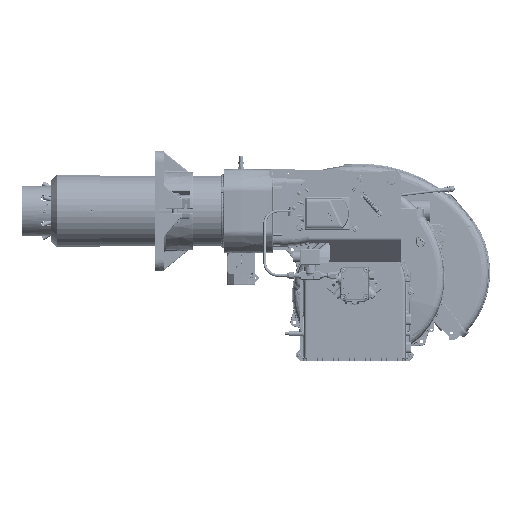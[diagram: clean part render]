
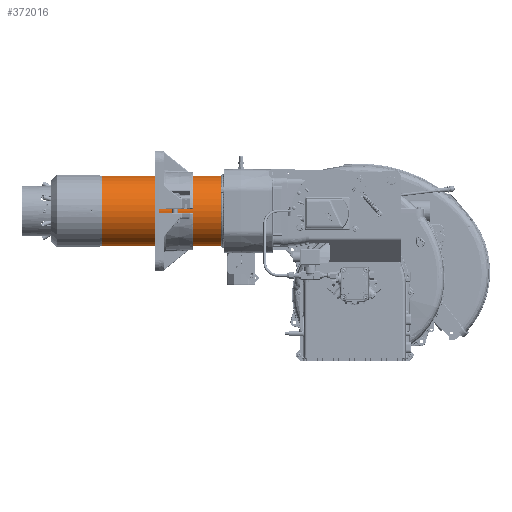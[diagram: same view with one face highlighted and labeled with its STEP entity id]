
A CAD part, top view. The second image highlights one B-rep face of the part: STEP entity #372016.
In plain terms, the highlighted cylindrical face has radius 76 mm (diameter 152 mm), a full revolution.
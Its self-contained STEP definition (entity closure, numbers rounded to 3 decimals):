
#30930 = DIRECTION ( 'NONE',  ( 0., 0., 1. ) ) ;
#54038 = AXIS2_PLACEMENT_3D ( 'NONE', #1036755, #435608, #514640 ) ;
#123362 = EDGE_CURVE ( 'NONE', #946756, #530631, #263840, .T. ) ;
#142803 = CARTESIAN_POINT ( 'NONE',  ( -289., 236., 0. ) ) ;
#209771 = EDGE_CURVE ( 'NONE', #760430, #760430, #803566, .T. ) ;
#263840 = CIRCLE ( 'NONE', #703373, 76. ) ;
#301218 = FACE_OUTER_BOUND ( 'NONE', #474464, .T. ) ;
#344848 = DIRECTION ( 'NONE',  ( 0., 0., 1. ) ) ;
#372016 = ADVANCED_FACE ( 'NONE', ( #301218, #383181 ), #907560, .T. ) ;
#372769 = CARTESIAN_POINT ( 'NONE',  ( -286., 160., 0. ) ) ;
#383181 = FACE_OUTER_BOUND ( 'NONE', #399218, .T. ) ;
#399218 = EDGE_LOOP ( 'NONE', ( #1109435, #1103570 ) ) ;
#429616 = AXIS2_PLACEMENT_3D ( 'NONE', #372769, #730052, #30930 ) ;
#435608 = DIRECTION ( 'NONE',  ( -1., 0., 0. ) ) ;
#470737 = CIRCLE ( 'NONE', #54038, 76. ) ;
#474464 = EDGE_LOOP ( 'NONE', ( #837656 ) ) ;
#514640 = DIRECTION ( 'NONE',  ( 0., 0., 1. ) ) ;
#530631 = VERTEX_POINT ( 'NONE', #142803 ) ;
#567721 = DIRECTION ( 'NONE',  ( 0., 0., 1. ) ) ;
#624971 = CARTESIAN_POINT ( 'NONE',  ( -289., 160., 76. ) ) ;
#626580 = EDGE_CURVE ( 'NONE', #530631, #946756, #470737, .T. ) ;
#703373 = AXIS2_PLACEMENT_3D ( 'NONE', #1104432, #1039970, #344848 ) ;
#730052 = DIRECTION ( 'NONE',  ( -1., 0., 0. ) ) ;
#760430 = VERTEX_POINT ( 'NONE', #1060586 ) ;
#803566 = CIRCLE ( 'NONE', #990518, 76. ) ;
#837656 = ORIENTED_EDGE ( 'NONE', *, *, #209771, .F. ) ;
#907560 = CYLINDRICAL_SURFACE ( 'NONE', #429616, 76. ) ;
#946756 = VERTEX_POINT ( 'NONE', #624971 ) ;
#990518 = AXIS2_PLACEMENT_3D ( 'NONE', #996166, #1075164, #567721 ) ;
#996166 = CARTESIAN_POINT ( 'NONE',  ( -546., 160., 0. ) ) ;
#1036755 = CARTESIAN_POINT ( 'NONE',  ( -289., 160., 0. ) ) ;
#1039970 = DIRECTION ( 'NONE',  ( -1., 0., 0. ) ) ;
#1060586 = CARTESIAN_POINT ( 'NONE',  ( -546., 160., 76. ) ) ;
#1075164 = DIRECTION ( 'NONE',  ( -1., 0., 0. ) ) ;
#1103570 = ORIENTED_EDGE ( 'NONE', *, *, #123362, .T. ) ;
#1104432 = CARTESIAN_POINT ( 'NONE',  ( -289., 160., 0. ) ) ;
#1109435 = ORIENTED_EDGE ( 'NONE', *, *, #626580, .T. ) ;
